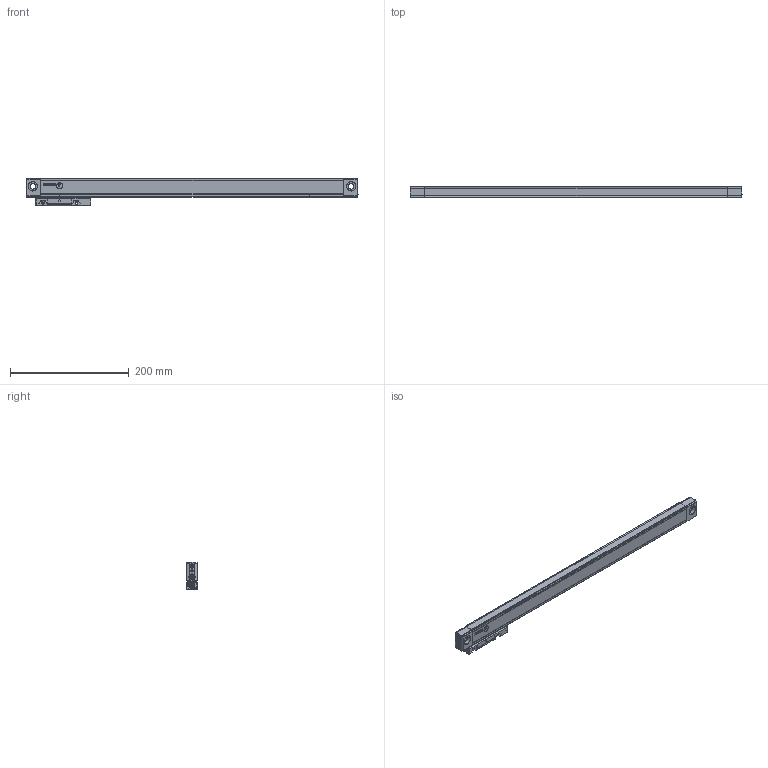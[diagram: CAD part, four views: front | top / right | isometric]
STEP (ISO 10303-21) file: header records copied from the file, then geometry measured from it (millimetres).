
FILE_DESCRIPTION(('Creo Elements/Direct Modeling STEP Export'),'2;1');
FILE_NAME('S3-420-T_V01.stp','2025-06-03T14:01:55',(''),(''),'Creo Elements/Direct Modeling STEP processor for AP214 (Solid Model)','Creo Elements/Direct Modeling 20.4A 18-Oct-2021 (C) Parametric Technology GmbH','');
FILE_SCHEMA(('AUTOMOTIVE_DESIGN { 1 0 10303 214 1 1 1 1 }'));
Length unit declared in the file: millimetre
Products named in the file (4): CABEZA-T; REGLA; S3-420-T_V01; S3-420-T_V01.stp
Assembly tree (3 placements, depth 3):
  S3-420-T_V01.stp
    S3-420-T_V01
      REGLA
      CABEZA-T
Bounding box: 558 x 18.3 x 46.2 mm (x, y, z)
Volume: 311183.6 mm3; surface area: 85126.2 mm2
Topology: 2 solids, 15 shells, 2148 faces, 6581 edges, 4544 vertices
Faces by surface type: plane 1148, cylinder 581, cone 230, bspline 135, torus 47, sphere 6, extrusion 1
Entity records: 89351 total; most frequent: CARTESIAN_POINT 31540, ORIENTED_EDGE 13088, DIRECTION 10564, EDGE_CURVE 6544, VERTEX_POINT 4544, VECTOR 4392, LINE 4391, AXIS2_PLACEMENT_3D 3086
